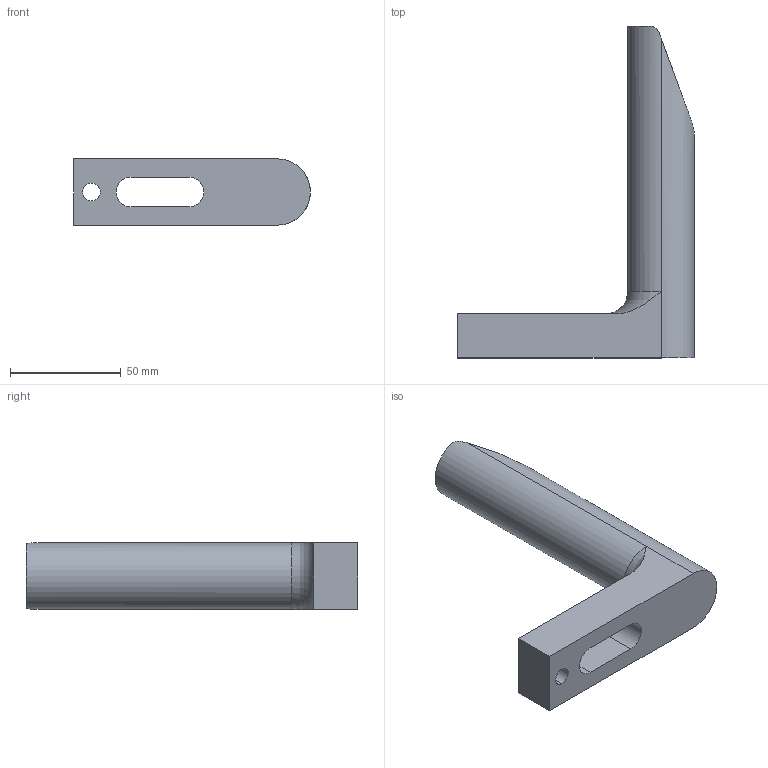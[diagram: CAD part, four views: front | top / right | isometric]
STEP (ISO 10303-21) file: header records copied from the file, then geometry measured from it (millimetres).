
FILE_DESCRIPTION(('CATIA V5 STEP Exchange'),'2;1');
FILE_NAME('C:\Users\Raffaele\Desktop\3D X SITO CF\702-705\GSB_OILLESS_M30101150\STEP-2.03\702-5.stp','2019-07-03T14:16:50+00:00',('none'),('none'),'CATIA Version 5 Release 20 GA (IN-10)','CATIA V5 STEP AP203','none');
FILE_SCHEMA(('CONFIG_CONTROL_DESIGN'));
Length unit declared in the file: millimetre
Products named in the file (1): 702-5
Bounding box: 107 x 150 x 30 mm (x, y, z)
Volume: 135723.3 mm3; surface area: 24162.5 mm2
Topology: 1 solids, 1 shells, 18 faces, 52 edges, 36 vertices
Faces by surface type: plane 9, cylinder 8, torus 1
Entity records: 745 total; most frequent: CARTESIAN_POINT 236, ORIENTED_EDGE 104, DIRECTION 77, EDGE_CURVE 52, VERTEX_POINT 36, AXIS2_PLACEMENT_3D 35, VECTOR 25, LINE 25
